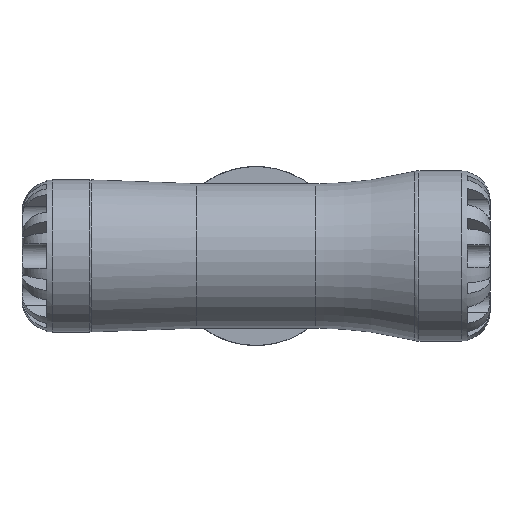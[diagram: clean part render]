
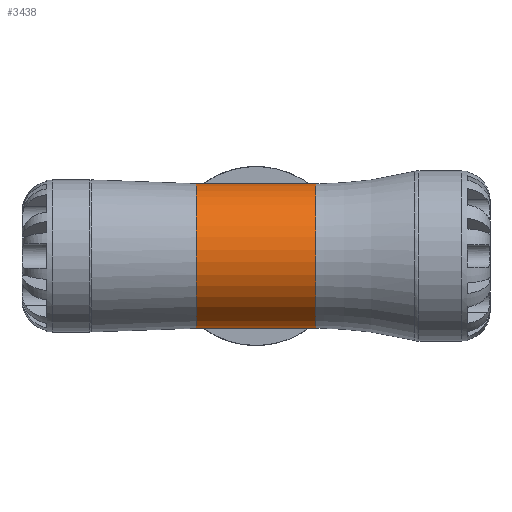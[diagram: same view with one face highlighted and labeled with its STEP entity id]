
A CAD part, front view. The second image highlights one B-rep face of the part: STEP entity #3438.
In plain terms, the highlighted cylindrical face has radius 19.975 mm (diameter 39.95 mm), a partial arc.
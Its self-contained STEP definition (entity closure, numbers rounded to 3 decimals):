
#598=CYLINDRICAL_SURFACE('',#3647,19.975);
#678=B_SPLINE_CURVE_WITH_KNOTS('',3,(#5034,#5035,#5036,#5037,#5038,#5039,
#5040,#5041,#5042,#5043,#5044,#5045,#5046,#5047,#5048,#5049,#5050,#5051,
#5052,#5053,#5054,#5055,#5056,#5057,#5058,#5059,#5060,#5061,#5062,#5063),
 .UNSPECIFIED.,.F.,.F.,(4,2,2,2,2,2,2,2,2,2,2,2,2,2,4),(4.199,
4.406,4.789,5.219,5.65,6.08,
6.295,6.51,6.725,6.94,7.37,
7.8,8.23,8.614,8.821),
 .UNSPECIFIED.);
#679=B_SPLINE_CURVE_WITH_KNOTS('',3,(#5066,#5067,#5068,#5069,#5070,#5071,
#5072,#5073,#5074,#5075,#5076,#5077,#5078,#5079,#5080,#5081,#5082,#5083,
#5084,#5085,#5086,#5087,#5088,#5089,#5090,#5091,#5092,#5093,#5094,#5095,
#5096),.UNSPECIFIED.,.F.,.F.,(4,2,2,2,2,2,2,3,2,2,2,2,2,2,4),(-2.311,
-2.104,-1.721,-1.29,-0.86,
-0.43,-0.215,0.,0.215,0.43,
0.86,1.29,1.721,2.104,2.311),
 .UNSPECIFIED.);
#778=FACE_OUTER_BOUND('',#984,.T.);
#984=EDGE_LOOP('',(#2223,#2224,#2225,#2226));
#1217=CIRCLE('',#3646,19.975);
#1218=CIRCLE('',#3648,19.975);
#1393=VERTEX_POINT('',#5003);
#1394=VERTEX_POINT('',#5004);
#1395=VERTEX_POINT('',#5033);
#1396=VERTEX_POINT('',#5064);
#1720=EDGE_CURVE('',#1393,#1394,#1217,.T.);
#1721=EDGE_CURVE('',#1395,#1393,#678,.T.);
#1722=EDGE_CURVE('',#1395,#1396,#1218,.T.);
#1723=EDGE_CURVE('',#1394,#1396,#679,.T.);
#2223=ORIENTED_EDGE('',*,*,#1721,.F.);
#2224=ORIENTED_EDGE('',*,*,#1722,.T.);
#2225=ORIENTED_EDGE('',*,*,#1723,.F.);
#2226=ORIENTED_EDGE('',*,*,#1720,.F.);
#3438=ADVANCED_FACE('',(#778),#598,.T.);
#3646=AXIS2_PLACEMENT_3D('',#5031,#4031,#4032);
#3647=AXIS2_PLACEMENT_3D('',#5032,#4033,#4034);
#3648=AXIS2_PLACEMENT_3D('',#5065,#4035,#4036);
#4031=DIRECTION('center_axis',(1.,0.,0.));
#4032=DIRECTION('ref_axis',(0.,0.,-1.));
#4033=DIRECTION('center_axis',(1.,0.,0.));
#4034=DIRECTION('ref_axis',(0.,1.,0.));
#4035=DIRECTION('center_axis',(1.,0.,0.));
#4036=DIRECTION('ref_axis',(0.,0.,-1.));
#5003=CARTESIAN_POINT('',(16.5,17.827,9.011));
#5004=CARTESIAN_POINT('',(16.5,17.827,-9.011));
#5031=CARTESIAN_POINT('Origin',(16.5,0.,0.));
#5032=CARTESIAN_POINT('Origin',(8.25,0.,0.));
#5033=CARTESIAN_POINT('',(-16.5,17.827,9.011));
#5034=CARTESIAN_POINT('Ctrl Pts',(-16.5,17.827,9.011));
#5035=CARTESIAN_POINT('Ctrl Pts',(-16.183,17.534,9.591));
#5036=CARTESIAN_POINT('Ctrl Pts',(-15.84,17.217,10.147));
#5037=CARTESIAN_POINT('Ctrl Pts',(-14.802,16.266,11.651));
#5038=CARTESIAN_POINT('Ctrl Pts',(-14.058,15.591,12.529));
#5039=CARTESIAN_POINT('Ctrl Pts',(-12.436,14.144,14.151));
#5040=CARTESIAN_POINT('Ctrl Pts',(-11.489,13.314,14.93));
#5041=CARTESIAN_POINT('Ctrl Pts',(-9.475,11.621,16.283));
#5042=CARTESIAN_POINT('Ctrl Pts',(-8.408,10.756,16.858));
#5043=CARTESIAN_POINT('Ctrl Pts',(-6.198,9.133,17.789));
#5044=CARTESIAN_POINT('Ctrl Pts',(-5.066,8.376,18.146));
#5045=CARTESIAN_POINT('Ctrl Pts',(-3.277,7.485,18.522));
#5046=CARTESIAN_POINT('Ctrl Pts',(-2.666,7.231,18.621));
#5047=CARTESIAN_POINT('Ctrl Pts',(-1.386,6.863,18.76));
#5048=CARTESIAN_POINT('Ctrl Pts',(-0.717,6.75,18.8));
#5049=CARTESIAN_POINT('Ctrl Pts',(0.717,6.75,18.8));
#5050=CARTESIAN_POINT('Ctrl Pts',(1.386,6.863,18.76));
#5051=CARTESIAN_POINT('Ctrl Pts',(2.666,7.231,18.621));
#5052=CARTESIAN_POINT('Ctrl Pts',(3.277,7.485,18.522));
#5053=CARTESIAN_POINT('Ctrl Pts',(5.066,8.376,18.146));
#5054=CARTESIAN_POINT('Ctrl Pts',(6.198,9.133,17.789));
#5055=CARTESIAN_POINT('Ctrl Pts',(8.408,10.756,16.858));
#5056=CARTESIAN_POINT('Ctrl Pts',(9.475,11.621,16.283));
#5057=CARTESIAN_POINT('Ctrl Pts',(11.489,13.314,14.93));
#5058=CARTESIAN_POINT('Ctrl Pts',(12.436,14.144,14.151));
#5059=CARTESIAN_POINT('Ctrl Pts',(14.058,15.591,12.529));
#5060=CARTESIAN_POINT('Ctrl Pts',(14.802,16.266,11.651));
#5061=CARTESIAN_POINT('Ctrl Pts',(15.84,17.217,10.147));
#5062=CARTESIAN_POINT('Ctrl Pts',(16.183,17.534,9.591));
#5063=CARTESIAN_POINT('Ctrl Pts',(16.5,17.827,9.011));
#5064=CARTESIAN_POINT('',(-16.5,17.827,-9.011));
#5065=CARTESIAN_POINT('Origin',(-16.5,0.,0.));
#5066=CARTESIAN_POINT('Ctrl Pts',(16.5,17.827,-9.011));
#5067=CARTESIAN_POINT('Ctrl Pts',(16.183,17.534,-9.591));
#5068=CARTESIAN_POINT('Ctrl Pts',(15.84,17.217,-10.147));
#5069=CARTESIAN_POINT('Ctrl Pts',(14.802,16.266,-11.651));
#5070=CARTESIAN_POINT('Ctrl Pts',(14.058,15.591,-12.529));
#5071=CARTESIAN_POINT('Ctrl Pts',(12.436,14.144,-14.151));
#5072=CARTESIAN_POINT('Ctrl Pts',(11.489,13.314,-14.93));
#5073=CARTESIAN_POINT('Ctrl Pts',(9.475,11.621,-16.283));
#5074=CARTESIAN_POINT('Ctrl Pts',(8.408,10.756,-16.858));
#5075=CARTESIAN_POINT('Ctrl Pts',(6.198,9.133,-17.789));
#5076=CARTESIAN_POINT('Ctrl Pts',(5.066,8.376,-18.146));
#5077=CARTESIAN_POINT('Ctrl Pts',(3.277,7.485,-18.522));
#5078=CARTESIAN_POINT('Ctrl Pts',(2.666,7.231,-18.621));
#5079=CARTESIAN_POINT('Ctrl Pts',(1.386,6.863,-18.76));
#5080=CARTESIAN_POINT('Ctrl Pts',(0.717,6.75,-18.8));
#5081=CARTESIAN_POINT('Ctrl Pts',(0.,6.75,-18.8));
#5082=CARTESIAN_POINT('Ctrl Pts',(-0.717,6.75,-18.8));
#5083=CARTESIAN_POINT('Ctrl Pts',(-1.386,6.863,-18.76));
#5084=CARTESIAN_POINT('Ctrl Pts',(-2.666,7.231,-18.621));
#5085=CARTESIAN_POINT('Ctrl Pts',(-3.277,7.485,-18.522));
#5086=CARTESIAN_POINT('Ctrl Pts',(-5.066,8.376,-18.146));
#5087=CARTESIAN_POINT('Ctrl Pts',(-6.198,9.133,-17.789));
#5088=CARTESIAN_POINT('Ctrl Pts',(-8.408,10.756,-16.858));
#5089=CARTESIAN_POINT('Ctrl Pts',(-9.475,11.621,-16.283));
#5090=CARTESIAN_POINT('Ctrl Pts',(-11.489,13.314,-14.93));
#5091=CARTESIAN_POINT('Ctrl Pts',(-12.436,14.144,-14.151));
#5092=CARTESIAN_POINT('Ctrl Pts',(-14.058,15.591,-12.529));
#5093=CARTESIAN_POINT('Ctrl Pts',(-14.802,16.266,-11.651));
#5094=CARTESIAN_POINT('Ctrl Pts',(-15.84,17.217,-10.147));
#5095=CARTESIAN_POINT('Ctrl Pts',(-16.183,17.534,-9.591));
#5096=CARTESIAN_POINT('Ctrl Pts',(-16.5,17.827,-9.011));
